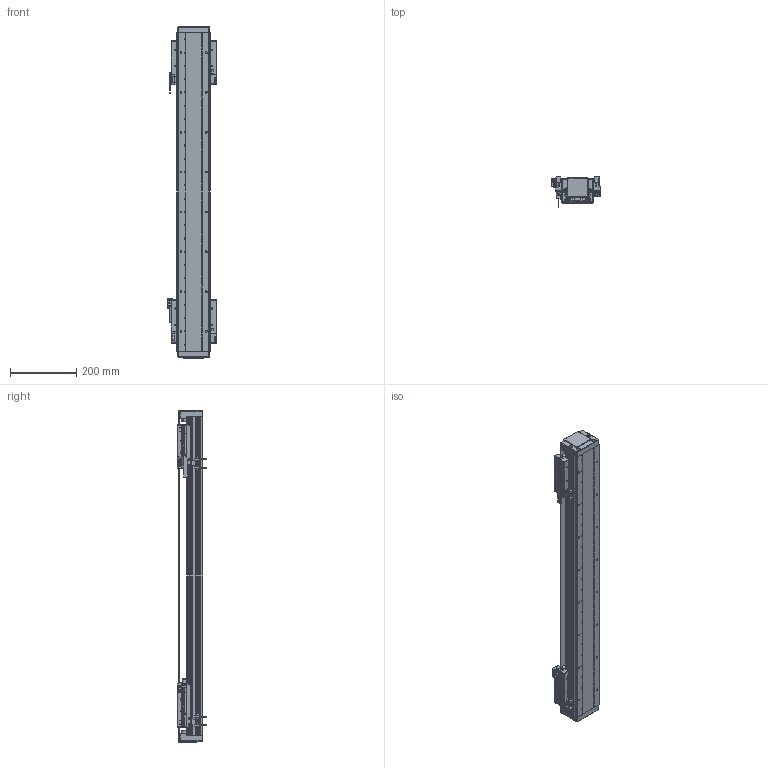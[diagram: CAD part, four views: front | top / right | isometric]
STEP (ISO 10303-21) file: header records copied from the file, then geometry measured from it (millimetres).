
FILE_DESCRIPTION (( 'STEP AP203' ), '1' );
FILE_NAME ('DA-B95-2-B15-T620-C010-0.2 直线电机.STEP', '2023-05-06T06:25:45', ( '微软用户' ), ( '微软中国' ), 'SwSTEP 2.0', 'SolidWorks 2019', '' );
FILE_SCHEMA (( 'CONFIG_CONTROL_DESIGN' ));
Length unit declared in the file: millimetre
Products named in the file (32): 66245-BU95-V 幗紩賑怢; 复件 DKW-HXJ-JY-00 缓冲橡胶^DA-A95-B15-T-C010-0.2-N 直线电机; DA-B95-2-B15-T620-C010-0.2 眻盄萇儂; 复件 DA95-DB-00  挡板^66245-BU95-V 滚珠滑台; 葩璃 DA95-GT-T-00^IU-BU95-L 菁釱絳寢_DA95; B15 XD-U-02L ｴﾅﾕ､ｳﾟ^DA-A95-B15-T-C010-0.2-N ﾖｱﾏﾟｵ扈銈XD-U-02L; DA-A95-GYP-00 光电感应片^DA-A95-B15-T-C010-0.2-N 直线电机; 葩璃 BKMA01-W060-TRL^DA-A95-B15-T-C010-0.2-N 眻盄萇儂; 66245-BU95-V-00 珨极趙賑雄怢啣; ｸｴｼ DA95-Txxx-002-00 ｸﾇｰ蘓DA-A95-B15-T-C010-0.2-N ﾖｱﾏﾟｵ扈銈T+30; 复件 六角薄螺母 M3^DA-A95-B15-T-C010-0.2-N 直线电机_GB_FASTENER_NUT_STNAB M3-C; LMDK-2-R001-V5-L02-C1-F00，0.2M 读数头^DA-A95-B15-T-C010-0.2-N 直线电机_DMA-010-0.2; 葩璃 BKM015-W060-C1-TP-DA-0.2^DA-A95-B15-T-C010-0.2-N 眻盄萇儂; DA95-HXJ-00 缓冲橡胶^DA-A95-B15-T-C010-0.2-N 直线电机; 复件 纯铜油杯 6x6mm^66245-BU95-V 滚珠滑台; PM-T45 光电开关^DA-A95-B15-T-C010-0.2-N 直线电机; 复件 DA95-MFP-01 密封片^66245-BU95-V 滚珠滑台; 复件 DA95-B15-YB-B-00 压板B^66245-BU95-V 滚珠滑台; 复件 DA95-HK-GT-00 滑块钢轨^66245-BU95-V-00 一体化滑动台板; 复件 DA95-DK-00 挡块^66245-BU95-V 滚珠滑台; 复件 DKW-GYP-ZJ-00 中间光电感应片^DA-A95-B15-T-C010-0.2-N 直线电机; IU-BU95-L 菁釱絳寢; IU-BU95-L-00 菁釱_L960; 葩璃 DA95-B15-DP--B-00 菜えB^66245-BU95-V 幗紩賑怢; 葩璃 DA95-B15-DP-A-00 菜えA^66245-BU95-V 幗紩賑怢; 复件 DKW-KGZ-ZJ-00 中间光电开关支架^DA-A95-B15-T-C010-0.2-N 直线电机; 复件 DA95-B15-YB-A-00 压板A^66245-BU95-V 滚珠滑台; 葩璃 PM-Y45^DA-A95-B15-T-C010-0.2-N 眻盄萇儂; DA95-DG-H-01^DA-A95-B15-T-C010-0.2-N 眻盄萇儂; 复件 66245-BU95-HT-V-01 滑动台板^66245-BU95-V-00 一体化滑动台板
Assembly tree (76 placements, depth 4):
  DA-B95-2-B15-T620-C010-0.2 眻盄萇儂
    IU-BU95-L 菁釱絳寢
      IU-BU95-L-00 菁釱_L960
      葩璃 DA95-GT-T-00^IU-BU95-L 菁釱絳寢_DA95  x2
    66245-BU95-V 幗紩賑怢
      66245-BU95-V-00 珨极趙賑雄怢啣
        复件 66245-BU95-HT-V-01 滑动台板^66245-BU95-V-00 一体化滑动台板
        复件 DA95-HK-GT-00 滑块钢轨^66245-BU95-V-00 一体化滑动台板  x2
      葩璃 DA95-B15-DP-A-00 菜えA^66245-BU95-V 幗紩賑怢
      复件 DA95-B15-YB-A-00 压板A^66245-BU95-V 滚珠滑台
      复件 DA95-B15-YB-B-00 压板B^66245-BU95-V 滚珠滑台
      复件 DA95-DB-00  挡板^66245-BU95-V 滚珠滑台  x4
      复件 DA95-DK-00 挡块^66245-BU95-V 滚珠滑台  x2
      复件 DA95-MFP-01 密封片^66245-BU95-V 滚珠滑台  x4
      复件 纯铜油杯 6x6mm^66245-BU95-V 滚珠滑台  x2
      葩璃 DA95-B15-DP--B-00 菜えB^66245-BU95-V 幗紩賑怢
    66245-BU95-V 幗紩賑怢
      66245-BU95-V-00 珨极趙賑雄怢啣
        复件 66245-BU95-HT-V-01 滑动台板^66245-BU95-V-00 一体化滑动台板
        复件 DA95-HK-GT-00 滑块钢轨^66245-BU95-V-00 一体化滑动台板  x2
      葩璃 DA95-B15-DP-A-00 菜えA^66245-BU95-V 幗紩賑怢
      复件 DA95-B15-YB-A-00 压板A^66245-BU95-V 滚珠滑台
      复件 DA95-B15-YB-B-00 压板B^66245-BU95-V 滚珠滑台
      复件 DA95-DB-00  挡板^66245-BU95-V 滚珠滑台  x4
      复件 DA95-DK-00 挡块^66245-BU95-V 滚珠滑台  x2
      复件 DA95-MFP-01 密封片^66245-BU95-V 滚珠滑台  x4
      复件 纯铜油杯 6x6mm^66245-BU95-V 滚珠滑台  x2
      葩璃 DA95-B15-DP--B-00 菜えB^66245-BU95-V 幗紩賑怢
    DA-A95-GYP-00 光电感应片^DA-A95-B15-T-C010-0.2-N 直线电机  x2
    LMDK-2-R001-V5-L02-C1-F00，0.2M 读数头^DA-A95-B15-T-C010-0.2-N 直线电机_DMA-010-0.2  x2
    复件 DKW-KGZ-ZJ-00 中间光电开关支架^DA-A95-B15-T-C010-0.2-N 直线电机
    葩璃 PM-Y45^DA-A95-B15-T-C010-0.2-N 眻盄萇儂
    复件 DKW-GYP-ZJ-00 中间光电感应片^DA-A95-B15-T-C010-0.2-N 直线电机
    葩璃 BKM015-W060-C1-TP-DA-0.2^DA-A95-B15-T-C010-0.2-N 眻盄萇儂  x2
    复件 DKW-HXJ-JY-00 缓冲橡胶^DA-A95-B15-T-C010-0.2-N 直线电机  x2
    PM-T45 光电开关^DA-A95-B15-T-C010-0.2-N 直线电机  x4
    B15 XD-U-02L ｴﾅﾕ､ｳﾟ^DA-A95-B15-T-C010-0.2-N ﾖｱﾏﾟｵ扈銈XD-U-02L
    DA95-DG-H-01^DA-A95-B15-T-C010-0.2-N 眻盄萇儂  x2
    ｸｴｼ DA95-Txxx-002-00 ｸﾇｰ蘓DA-A95-B15-T-C010-0.2-N ﾖｱﾏﾟｵ扈銈T+30
    DA95-HXJ-00 缓冲橡胶^DA-A95-B15-T-C010-0.2-N 直线电机  x4
    葩璃 BKMA01-W060-TRL^DA-A95-B15-T-C010-0.2-N 眻盄萇儂
    复件 六角薄螺母 M3^DA-A95-B15-T-C010-0.2-N 直线电机_GB_FASTENER_NUT_STNAB M3-C  x6
Bounding box: 145.4 x 90.2 x 1000 mm (x, y, z)
Volume: 4272127.5 mm3; surface area: 1301221.1 mm2
Topology: 71 solids, 89 shells, 4258 faces, 11008 edges, 6781 vertices
Faces by surface type: cylinder 1836, plane 1470, cone 544, bspline 344, torus 60, sphere 4
Entity records: 84775 total; most frequent: CARTESIAN_POINT 23526, ORIENTED_EDGE 11954, DIRECTION 11757, EDGE_CURVE 5977, AXIS2_PLACEMENT_3D 4395, VERTEX_POINT 3796, LINE 2967, VECTOR 2967
